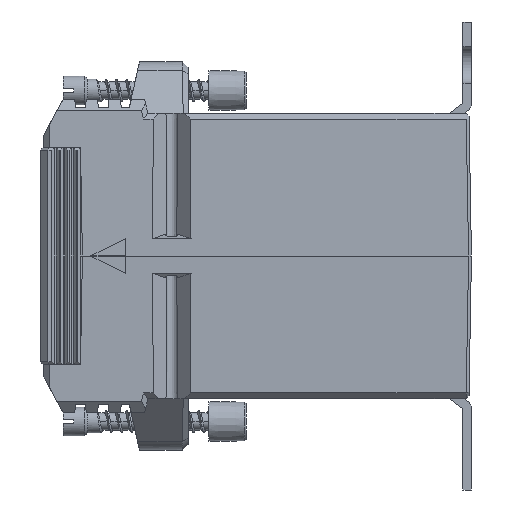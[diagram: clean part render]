
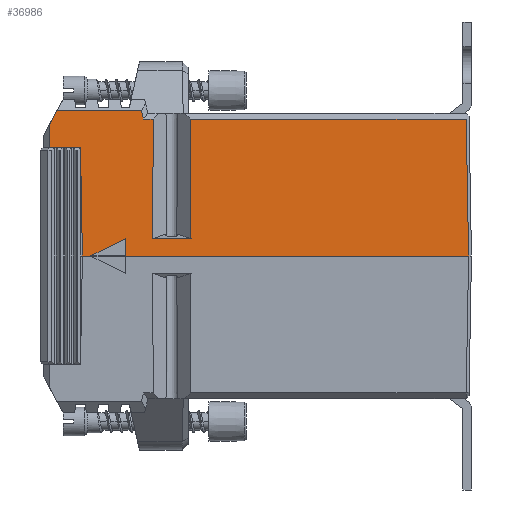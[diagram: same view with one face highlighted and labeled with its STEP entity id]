
A CAD part, left-side view. The second image highlights one B-rep face of the part: STEP entity #36986.
In plain terms, the highlighted planar face has unit normal (-1, 0, 0.018).
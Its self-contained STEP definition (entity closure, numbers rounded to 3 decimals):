
#578=PLANE('',#39185);
#2367=FACE_OUTER_BOUND('',#4396,.T.);
#4396=EDGE_LOOP('',(#25887,#25888,#25889,#25890,#25891,#25892,#25893,#25894,
#25895,#25896,#25897,#25898,#25899,#25900,#25901,#25902));
#8189=LINE('',#55457,#12133);
#8317=LINE('',#55748,#12261);
#8383=LINE('',#55881,#12327);
#8402=LINE('',#55918,#12346);
#8403=LINE('',#55920,#12347);
#8404=LINE('',#55922,#12348);
#8405=LINE('',#55924,#12349);
#8406=LINE('',#55925,#12350);
#8407=LINE('',#55927,#12351);
#8408=LINE('',#55928,#12352);
#8409=LINE('',#55930,#12353);
#8410=LINE('',#55931,#12354);
#8411=LINE('',#55933,#12355);
#8412=LINE('',#55935,#12356);
#8413=LINE('',#55937,#12357);
#8414=LINE('',#55938,#12358);
#12133=VECTOR('',#42464,1000.);
#12261=VECTOR('',#42666,1000.);
#12327=VECTOR('',#42756,1000.);
#12346=VECTOR('',#42785,1000.);
#12347=VECTOR('',#42786,1000.);
#12348=VECTOR('',#42787,1000.);
#12349=VECTOR('',#42788,1000.);
#12350=VECTOR('',#42789,1000.);
#12351=VECTOR('',#42790,1000.);
#12352=VECTOR('',#42791,1000.);
#12353=VECTOR('',#42792,1000.);
#12354=VECTOR('',#42793,10.);
#12355=VECTOR('',#42794,1000.);
#12356=VECTOR('',#42795,1000.);
#12357=VECTOR('',#42796,1000.);
#12358=VECTOR('',#42797,1000.);
#16218=VERTEX_POINT('',#55454);
#16219=VERTEX_POINT('',#55456);
#16343=VERTEX_POINT('',#55742);
#16345=VERTEX_POINT('',#55746);
#16399=VERTEX_POINT('',#55878);
#16400=VERTEX_POINT('',#55880);
#16412=VERTEX_POINT('',#55916);
#16413=VERTEX_POINT('',#55917);
#16414=VERTEX_POINT('',#55919);
#16415=VERTEX_POINT('',#55921);
#16416=VERTEX_POINT('',#55923);
#16417=VERTEX_POINT('',#55926);
#16418=VERTEX_POINT('',#55929);
#16419=VERTEX_POINT('',#55932);
#16420=VERTEX_POINT('',#55934);
#16421=VERTEX_POINT('',#55936);
#19861=EDGE_CURVE('',#16219,#16218,#8189,.T.);
#20009=EDGE_CURVE('',#16343,#16345,#8317,.T.);
#20075=EDGE_CURVE('',#16400,#16399,#8383,.T.);
#20095=EDGE_CURVE('',#16412,#16413,#8402,.T.);
#20096=EDGE_CURVE('',#16413,#16414,#8403,.T.);
#20097=EDGE_CURVE('',#16414,#16415,#8404,.T.);
#20098=EDGE_CURVE('',#16415,#16416,#8405,.T.);
#20099=EDGE_CURVE('',#16416,#16343,#8406,.T.);
#20100=EDGE_CURVE('',#16345,#16417,#8407,.T.);
#20101=EDGE_CURVE('',#16400,#16417,#8408,.T.);
#20102=EDGE_CURVE('',#16399,#16418,#8409,.T.);
#20103=EDGE_CURVE('',#16219,#16418,#8410,.T.);
#20104=EDGE_CURVE('',#16419,#16218,#8411,.T.);
#20105=EDGE_CURVE('',#16419,#16420,#8412,.T.);
#20106=EDGE_CURVE('',#16420,#16421,#8413,.T.);
#20107=EDGE_CURVE('',#16412,#16421,#8414,.T.);
#25887=ORIENTED_EDGE('',*,*,#20095,.T.);
#25888=ORIENTED_EDGE('',*,*,#20096,.T.);
#25889=ORIENTED_EDGE('',*,*,#20097,.T.);
#25890=ORIENTED_EDGE('',*,*,#20098,.T.);
#25891=ORIENTED_EDGE('',*,*,#20099,.T.);
#25892=ORIENTED_EDGE('',*,*,#20009,.T.);
#25893=ORIENTED_EDGE('',*,*,#20100,.T.);
#25894=ORIENTED_EDGE('',*,*,#20101,.F.);
#25895=ORIENTED_EDGE('',*,*,#20075,.T.);
#25896=ORIENTED_EDGE('',*,*,#20102,.T.);
#25897=ORIENTED_EDGE('',*,*,#20103,.F.);
#25898=ORIENTED_EDGE('',*,*,#19861,.T.);
#25899=ORIENTED_EDGE('',*,*,#20104,.F.);
#25900=ORIENTED_EDGE('',*,*,#20105,.T.);
#25901=ORIENTED_EDGE('',*,*,#20106,.T.);
#25902=ORIENTED_EDGE('',*,*,#20107,.F.);
#36986=ADVANCED_FACE('',(#2367),#578,.T.);
#39185=AXIS2_PLACEMENT_3D('',#55915,#42783,#42784);
#42464=DIRECTION('',(-0.017,-0.017,-1.));
#42666=DIRECTION('',(0.,1.,0.));
#42756=DIRECTION('',(-0.015,0.469,-0.883));
#42783=DIRECTION('center_axis',(-1.,0.,
0.017));
#42784=DIRECTION('ref_axis',(0.017,0.,1.));
#42785=DIRECTION('',(0.017,0.017,1.));
#42786=DIRECTION('',(0.,1.,0.));
#42787=DIRECTION('',(-0.017,-0.005,-1.));
#42788=DIRECTION('',(0.,1.,0.));
#42789=DIRECTION('',(0.017,-0.005,1.));
#42790=DIRECTION('',(0.017,0.216,0.976));
#42791=DIRECTION('',(0.,-1.,0.));
#42792=DIRECTION('',(-0.017,0.,-1.));
#42793=DIRECTION('',(0.,1.,0.));
#42794=DIRECTION('',(0.,1.,0.));
#42795=DIRECTION('',(0.008,-0.894,0.447));
#42796=DIRECTION('',(-0.017,0.,-1.));
#42797=DIRECTION('',(0.,1.,0.));
#55454=CARTESIAN_POINT('',(-30.,36.668,0.));
#55456=CARTESIAN_POINT('',(-29.668,37.,19.));
#55457=CARTESIAN_POINT('',(-29.998,36.67,0.119));
#55742=CARTESIAN_POINT('',(-29.581,24.254,24.));
#55746=CARTESIAN_POINT('',(-29.581,26.003,24.));
#55748=CARTESIAN_POINT('',(-29.581,25.2,24.));
#55878=CARTESIAN_POINT('',(-29.601,42.5,22.881));
#55880=CARTESIAN_POINT('',(-29.555,41.107,25.5));
#55881=CARTESIAN_POINT('',(-29.919,52.205,4.627));
#55915=CARTESIAN_POINT('Origin',(-30.,43.5,0.));
#55916=CARTESIAN_POINT('',(-30.,-31.,0.));
#55917=CARTESIAN_POINT('',(-29.581,-30.581,24.));
#55918=CARTESIAN_POINT('',(-29.977,-30.977,1.3));
#55919=CARTESIAN_POINT('',(-29.581,17.746,24.));
#55920=CARTESIAN_POINT('',(-29.581,25.2,24.));
#55921=CARTESIAN_POINT('',(-29.948,17.638,3.));
#55922=CARTESIAN_POINT('',(-29.998,17.623,0.132));
#55923=CARTESIAN_POINT('',(-29.948,24.362,3.));
#55924=CARTESIAN_POINT('',(-29.948,43.5,3.));
#55925=CARTESIAN_POINT('',(-30.002,24.378,-0.098));
#55926=CARTESIAN_POINT('',(-29.555,26.335,25.5));
#55927=CARTESIAN_POINT('',(-29.916,21.751,4.82));
#55928=CARTESIAN_POINT('',(-29.555,60.,25.5));
#55929=CARTESIAN_POINT('',(-29.668,42.5,19.));
#55930=CARTESIAN_POINT('',(-30.,42.5,0.));
#55931=CARTESIAN_POINT('',(-29.668,41.75,19.));
#55932=CARTESIAN_POINT('',(-30.,35.168,0.));
#55933=CARTESIAN_POINT('',(-30.,43.5,0.));
#55934=CARTESIAN_POINT('',(-29.948,29.168,3.));
#55935=CARTESIAN_POINT('',(-30.,35.168,0.));
#55936=CARTESIAN_POINT('',(-30.,29.168,0.));
#55937=CARTESIAN_POINT('',(-29.948,29.168,3.));
#55938=CARTESIAN_POINT('',(-30.,43.5,0.));
